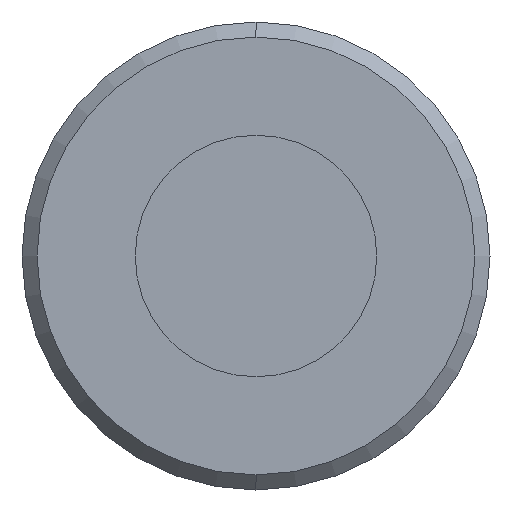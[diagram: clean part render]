
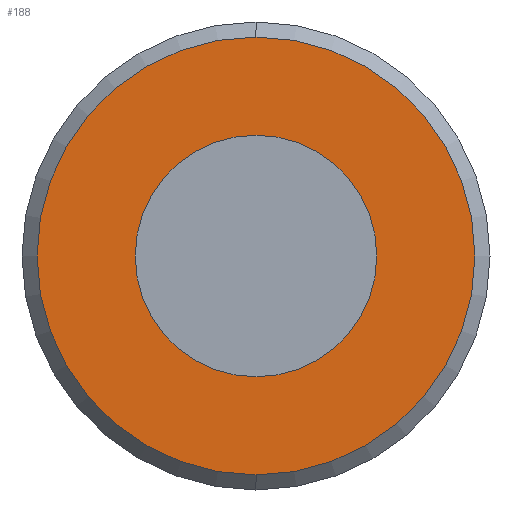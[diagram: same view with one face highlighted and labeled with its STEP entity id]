
A CAD part, left-side view. The second image highlights one B-rep face of the part: STEP entity #188.
In plain terms, the highlighted planar face has unit normal (-1, 0, 0).
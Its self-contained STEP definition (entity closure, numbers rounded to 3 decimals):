
#18 = CARTESIAN_POINT ( 'NONE',  ( 84.996, 0., -14.5 ) ) ;
#60 = EDGE_CURVE ( 'NONE', #528, #677, #513, .T. ) ;
#79 = CARTESIAN_POINT ( 'NONE',  ( 84.996, 8., 0. ) ) ;
#86 = PLANE ( 'NONE',  #559 ) ;
#143 = CARTESIAN_POINT ( 'NONE',  ( 84.996, 0., 0. ) ) ;
#169 = CARTESIAN_POINT ( 'NONE',  ( 84.996, 0., 0. ) ) ;
#188 = ADVANCED_FACE ( 'NONE', ( #272, #602 ), #86, .F. ) ;
#210 = DIRECTION ( 'NONE',  ( 0., 0., 1. ) ) ;
#222 = DIRECTION ( 'NONE',  ( 0., 0., -1. ) ) ;
#238 = EDGE_CURVE ( 'NONE', #282, #848, #780, .T. ) ;
#255 = EDGE_LOOP ( 'NONE', ( #852, #700 ) ) ;
#263 = DIRECTION ( 'NONE',  ( -1., 0., 0. ) ) ;
#272 = FACE_BOUND ( 'NONE', #320, .T. ) ;
#282 = VERTEX_POINT ( 'NONE', #436 ) ;
#320 = EDGE_LOOP ( 'NONE', ( #750, #812 ) ) ;
#348 = AXIS2_PLACEMENT_3D ( 'NONE', #616, #263, #680 ) ;
#381 = AXIS2_PLACEMENT_3D ( 'NONE', #143, #618, #210 ) ;
#436 = CARTESIAN_POINT ( 'NONE',  ( 84.996, 0., -8. ) ) ;
#447 = CIRCLE ( 'NONE', #789, 8. ) ;
#454 = DIRECTION ( 'NONE',  ( 0., 0., 1. ) ) ;
#500 = EDGE_CURVE ( 'NONE', #677, #528, #708, .T. ) ;
#513 = CIRCLE ( 'NONE', #381, 14.5 ) ;
#528 = VERTEX_POINT ( 'NONE', #824 ) ;
#559 = AXIS2_PLACEMENT_3D ( 'NONE', #79, #768, #222 ) ;
#602 = FACE_OUTER_BOUND ( 'NONE', #255, .T. ) ;
#616 = CARTESIAN_POINT ( 'NONE',  ( 84.996, 0., 0. ) ) ;
#618 = DIRECTION ( 'NONE',  ( -1., 0., 0. ) ) ;
#638 = DIRECTION ( 'NONE',  ( -1., 0., 0. ) ) ;
#677 = VERTEX_POINT ( 'NONE', #18 ) ;
#680 = DIRECTION ( 'NONE',  ( 0., 0., 1. ) ) ;
#700 = ORIENTED_EDGE ( 'NONE', *, *, #60, .T. ) ;
#708 = CIRCLE ( 'NONE', #348, 14.5 ) ;
#711 = DIRECTION ( 'NONE',  ( 0., 0., 1. ) ) ;
#750 = ORIENTED_EDGE ( 'NONE', *, *, #811, .F. ) ;
#768 = DIRECTION ( 'NONE',  ( 1., 0., 0. ) ) ;
#776 = AXIS2_PLACEMENT_3D ( 'NONE', #169, #638, #711 ) ;
#780 = CIRCLE ( 'NONE', #776, 8. ) ;
#789 = AXIS2_PLACEMENT_3D ( 'NONE', #797, #866, #454 ) ;
#797 = CARTESIAN_POINT ( 'NONE',  ( 84.996, 0., 0. ) ) ;
#811 = EDGE_CURVE ( 'NONE', #848, #282, #447, .T. ) ;
#812 = ORIENTED_EDGE ( 'NONE', *, *, #238, .F. ) ;
#824 = CARTESIAN_POINT ( 'NONE',  ( 84.996, 0., 14.5 ) ) ;
#848 = VERTEX_POINT ( 'NONE', #871 ) ;
#852 = ORIENTED_EDGE ( 'NONE', *, *, #500, .T. ) ;
#866 = DIRECTION ( 'NONE',  ( -1., 0., 0. ) ) ;
#871 = CARTESIAN_POINT ( 'NONE',  ( 84.996, 0., 8. ) ) ;
